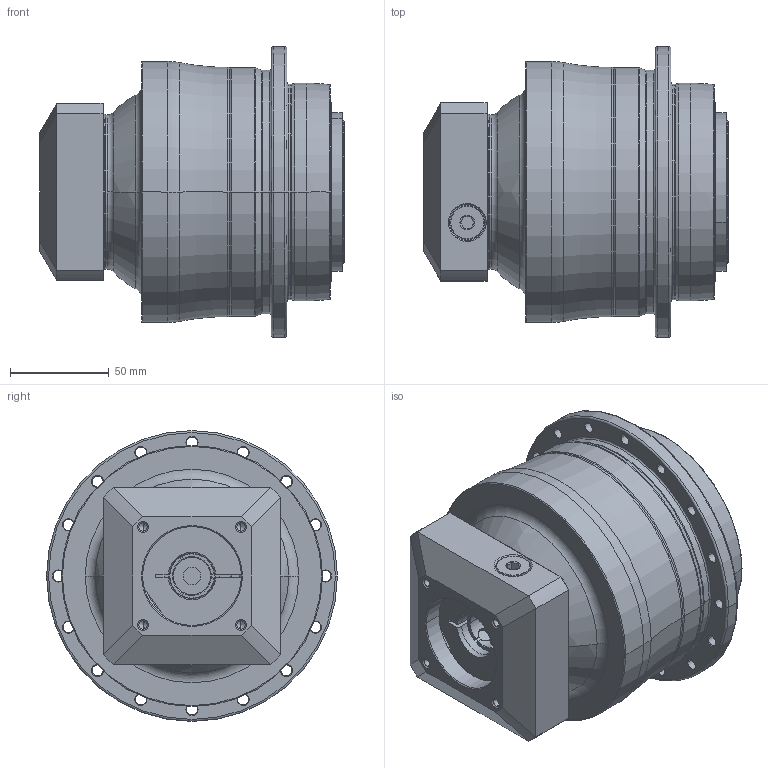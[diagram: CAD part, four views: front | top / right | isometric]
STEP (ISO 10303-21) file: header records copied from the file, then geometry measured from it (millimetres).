
FILE_DESCRIPTION((''),'2;1');
FILE_NAME('AH110_2ST_19-P0409400101_ASM','2016-08-05T',('d01943'),(''),'PRO/ENGINEER BY PARAMETRIC TECHNOLOGY CORPORATION, 2008410','PRO/ENGINEER BY PARAMETRIC TECHNOLOGY CORPORATION, 2008410','');
FILE_SCHEMA(('CONFIG_CONTROL_DESIGN'));
Length unit declared in the file: millimetre
Products named in the file (8): P0278400003; P0359400002; P1317400101; P0409400101; P0503400008; P0912302001; 21711412017; AH110_2ST_19-P0409400101_ASM
Assembly tree (7 placements, depth 2):
  AH110_2ST_19-P0409400101_ASM
    P0278400003
    P0359400002
    P1317400101
    P0409400101
    P0503400008
    P0912302001
    21711412017
Bounding box: 154 x 147 x 147 mm (x, y, z)
Volume: 1426872.3 mm3; surface area: 192789.5 mm2
Topology: 8 solids, 8 shells, 600 faces, 1365 edges, 796 vertices
Faces by surface type: cylinder 228, cone 194, plane 98, torus 64, bspline 16
Entity records: 21015 total; most frequent: CARTESIAN_POINT 7277, DIRECTION 3105, ORIENTED_EDGE 2622, EDGE_CURVE 1311, AXIS2_PLACEMENT_3D 1306, VERTEX_POINT 796, EDGE_LOOP 717, CIRCLE 707
